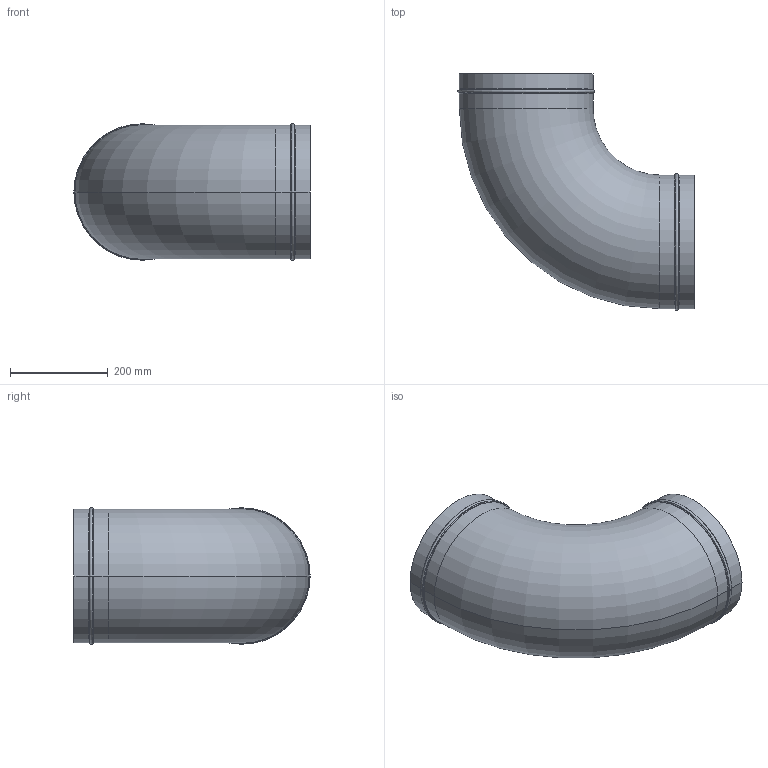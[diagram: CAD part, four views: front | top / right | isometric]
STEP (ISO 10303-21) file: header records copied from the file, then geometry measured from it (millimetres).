
FILE_DESCRIPTION(/* description */ (''),/* implementation_level */ '2;1');
FILE_NAME(/* name */ 'M003_stp.stp',/* time_stamp */ '2025-06-20T11:47:22+08:00',/* author */ (''),/* organization */ (''),/* preprocessor_version */ 'ST-DEVELOPER v14',/* originating_system */ 'SIEMENS PLM Software NX 8.0',/* authorisation */ '');
FILE_SCHEMA (('AP203_CONFIGURATION_CONTROLLED_3D_DESIGN_OF_MECHANICAL_PARTS_AND_ASSEMBLIES_MIM_LF { 1 0 10303 403 2 1 2}'));
Length unit declared in the file: millimetre
Products named in the file (1): Admi0BECFFFE4xuw
Bounding box: 482.47 x 482.47 x 278.93 mm (x, y, z)
Volume: 1698350.4 mm3; surface area: 976412.5 mm2
Topology: 1 solids, 1 shells, 62 faces, 132 edges, 72 vertices
Faces by surface type: torus 28, cylinder 16, cone 16, plane 2
Entity records: 1768 total; most frequent: DIRECTION 358, CARTESIAN_POINT 267, ORIENTED_EDGE 264, AXIS2_PLACEMENT_3D 163, EDGE_CURVE 132, CIRCLE 100, VERTEX_POINT 72, EDGE_LOOP 64
